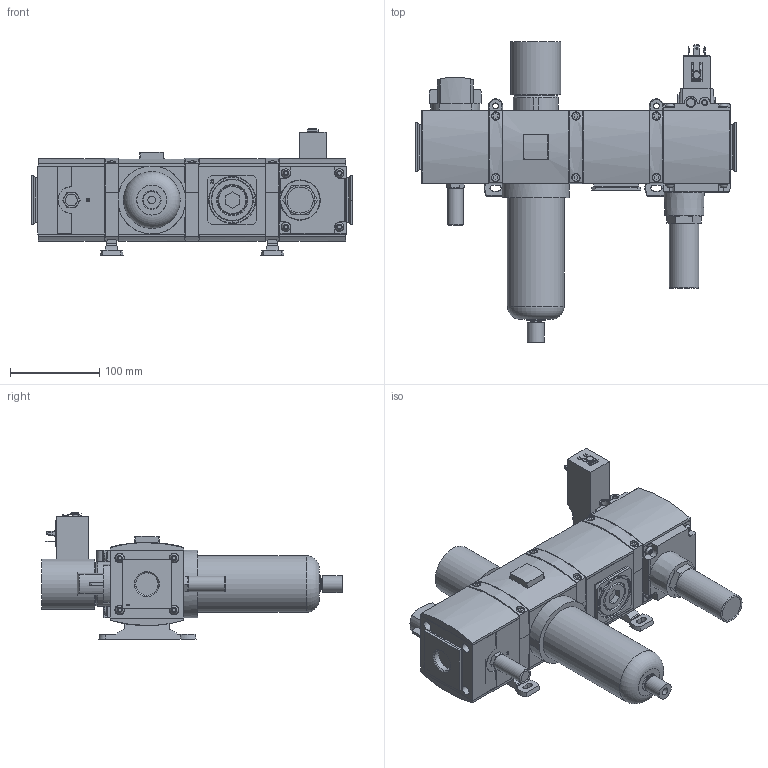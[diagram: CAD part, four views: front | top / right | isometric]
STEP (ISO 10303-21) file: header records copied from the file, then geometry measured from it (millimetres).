
FILE_DESCRIPTION( ( 'STEP AP214' ), '1' );
FILE_NAME( 'p:/temp/worker_159/temp/exporttempdir_5544_122_nP19T/format_0/26142020-220245_gen_8539.stp', '2020-02-26T21:14:48', ( '' ), ( '' ), ' ', 'PARTsolutions', ' ' );
FILE_SCHEMA( ( 'AUTOMOTIVE_DESIGN { 1 0 10303 214 1 1 1 1 }' ) );
Length unit declared in the file: millimetre
Products named in the file (22): 26142020-220245_gen_8539; _440562-004-005-F(L); _439489-001-0; _437742 KNOB-100_653; _653-M3MN; _440561-004-005-F(L); _G653ASLA0B00A00_LS; _439488-011-F(L); _653-438047-009; _439489-002-H; _503493-001; _510722-001-STANDARD_653; _507439-006-P; _653-440512-002; _G653ASLA0A00A00_LS; _439906-015-F(L); _653-129-105A_plug; _500003-008-F(L); _500014; _19200007 Horizontal Solenoid without DIN5-653; _500005; _653-M6MN
Assembly tree (28 placements, depth 2):
  26142020-220245_gen_8539
    _440562-004-005-F(L)
    _439489-001-0  x7
    _437742 KNOB-100_653
    _653-M3MN
    _440561-004-005-F(L)
    _G653ASLA0B00A00_LS  x2
    _439488-011-F(L)
    _653-438047-009
    _439489-002-H
    _503493-001
    _510722-001-STANDARD_653
    _507439-006-P
    _653-440512-002
    _G653ASLA0A00A00_LS
    _439906-015-F(L)
    _653-129-105A_plug
    _500003-008-F(L)
    _500014
    _19200007 Horizontal Solenoid without DIN5-653
    _500005
    _653-M6MN
Bounding box: 360 x 335.95 x 141.5 mm (x, y, z)
Volume: 3584068.4 mm3; surface area: 534592.2 mm2
Topology: 28 solids, 28 shells, 1888 faces, 4606 edges, 2940 vertices
Faces by surface type: plane 1234, cylinder 428, cone 174, torus 40, sphere 12
Full cylindrical faces by diameter (mm): 1.65 x1, 1.7 x2, 2.8 x2, 4 x2, 5 x1, 5.35 x1, 5.85 x4, 6 x1, 6.3 x4, 6.5 x2, 8.15 x4, 8.5 x6, 8.6 x1, 9 x1, 9.25 x1, 10 x12, 10.4 x1, 10.8 x4, 12 x4, 12.309 x1, 12.985 x1, 15.1 x1, 16.105 x1, 17.3 x1, 19 x1, 21.6 x1, 23.722 x1, 29.5 x1, 33.1 x1, 33.5 x1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
Entity records: 64589 total; most frequent: CARTESIAN_POINT 9488, DIRECTION 8646, ORIENTED_EDGE 7960, EDGE_CURVE 3980, AXIS2_PLACEMENT_3D 2999, VERTEX_POINT 2670, LINE 2648, VECTOR 2648
